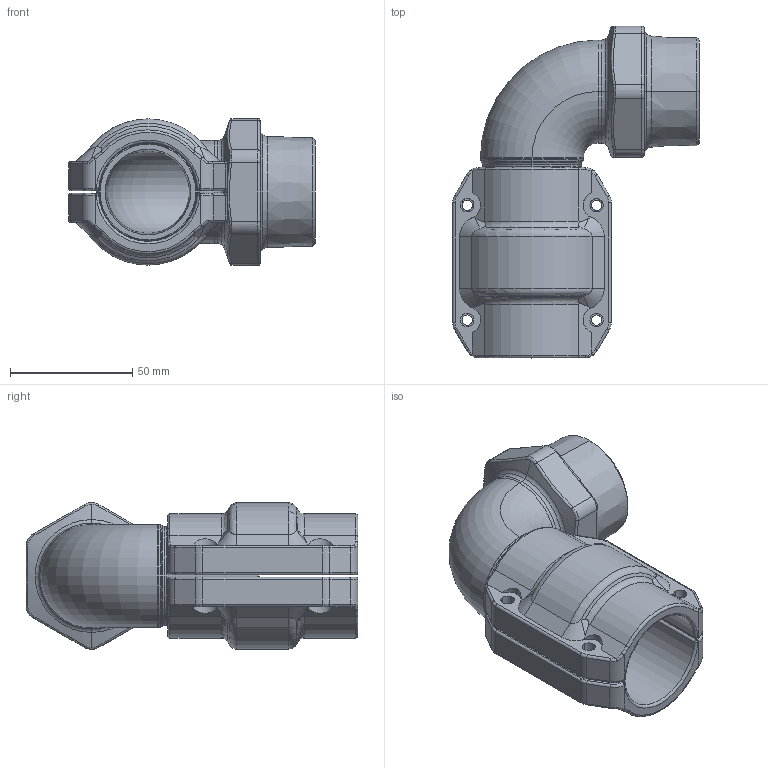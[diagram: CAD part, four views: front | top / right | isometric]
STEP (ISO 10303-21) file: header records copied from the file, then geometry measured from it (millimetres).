
FILE_DESCRIPTION((''),'2;1');
FILE_NAME('AU15441599_ASM','2017-05-12T',('Administrator'),(''),'PRO/ENGINEER BY PARAMETRIC TECHNOLOGY CORPORATION, 2009360','PRO/ENGINEER BY PARAMETRIC TECHNOLOGY CORPORATION, 2009360','');
FILE_SCHEMA(('AUTOMOTIVE_DESIGN_CC2 { 1 2 10303 214 -1 1 5 2 }'));
Length unit declared in the file: millimetre
Products named in the file (5): AU15441500; 201540020001; 201540020000; 2015400200_ASM; AU15441599_ASM
Assembly tree (4 placements, depth 3):
  AU15441599_ASM
    AU15441500
    2015400200_ASM
      201540020001
      201540020000
Bounding box: 101.1 x 135.95 x 60.15 mm (x, y, z)
Volume: 171950 mm3; surface area: 63836.1 mm2
Topology: 3 solids, 3 shells, 293 faces, 720 edges, 434 vertices
Faces by surface type: cylinder 110, torus 78, plane 45, bspline 36, cone 16, sphere 8
Entity records: 12558 total; most frequent: CARTESIAN_POINT 3507, ORIENTED_EDGE 1440, DIRECTION 1438, PRESENTATION_STYLE_ASSIGNMENT 723, STYLED_ITEM 723, CURVE_STYLE 720, EDGE_CURVE 720, AXIS2_PLACEMENT_3D 610
